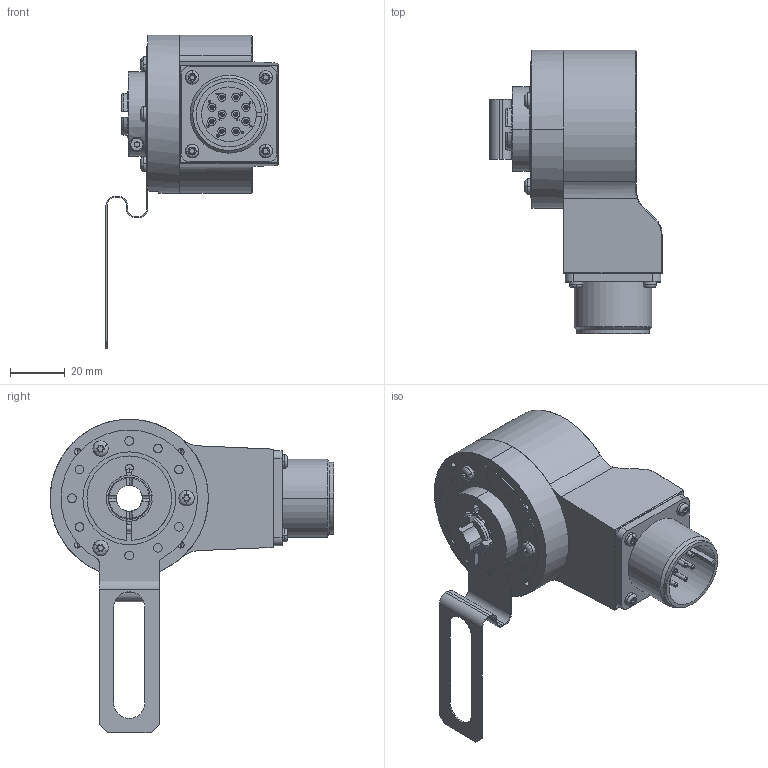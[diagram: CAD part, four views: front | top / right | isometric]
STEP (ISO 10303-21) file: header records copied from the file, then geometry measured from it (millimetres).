
FILE_DESCRIPTION (( 'STEP AP203' ), '1' );
FILE_NAME ('K58I.OXX.XXXXX.XH2452A.6XRCJ.step', '2025-12-08T15:00:31', ( '' ), ( '' ), 'SwSTEP 2.0', 'SolidWorks 2021', '' );
FILE_SCHEMA (( 'CONFIG_CONTROL_DESIGN' ));
Length unit declared in the file: millimetre
Products named in the file (1): K58I.OXX.XXXXX.XH2452A.6XRCJ
Bounding box: 63.09 x 104 x 115 mm (x, y, z)
Volume: 144206.9 mm3; surface area: 48028.6 mm2
Topology: 8 solids, 8 shells, 720 faces, 1815 edges, 1157 vertices
Faces by surface type: cylinder 321, plane 257, bspline 61, cone 53, torus 28
Entity records: 27116 total; most frequent: CARTESIAN_POINT 9843, ORIENTED_EDGE 3602, DIRECTION 3552, EDGE_CURVE 1801, AXIS2_PLACEMENT_3D 1335, VERTEX_POINT 1157, LINE 882, VECTOR 882
